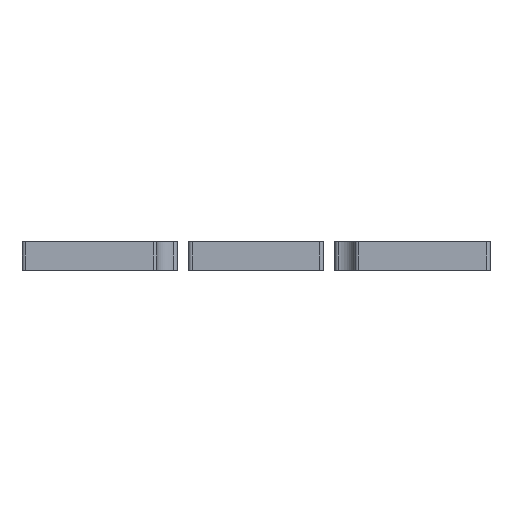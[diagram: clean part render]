
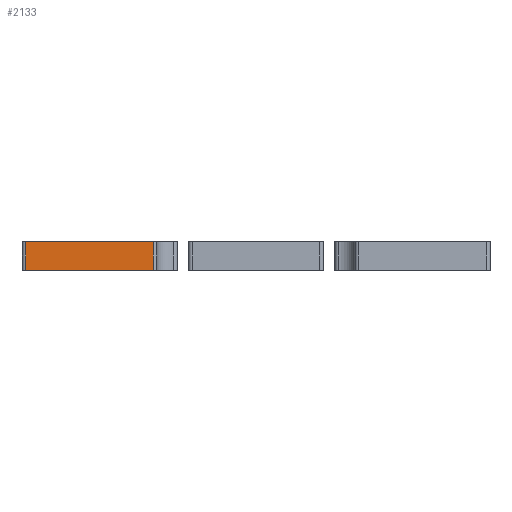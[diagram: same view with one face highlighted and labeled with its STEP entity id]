
A CAD part, front view. The second image highlights one B-rep face of the part: STEP entity #2133.
In plain terms, the highlighted planar face has unit normal (0, -1, 0).
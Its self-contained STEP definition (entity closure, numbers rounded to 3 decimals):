
#25 = VECTOR ( 'NONE', #6021, 1000. ) ;
#643 = PLANE ( 'NONE',  #3785 ) ;
#720 = LINE ( 'NONE', #3465, #4985 ) ;
#925 = CARTESIAN_POINT ( 'NONE',  ( -58.5, -241.9, 49. ) ) ;
#1078 = CARTESIAN_POINT ( 'NONE',  ( -56.5, -241.9, 33. ) ) ;
#1186 = DIRECTION ( 'NONE',  ( 0., 1., 0. ) ) ;
#1474 = ORIENTED_EDGE ( 'NONE', *, *, #1731, .T. ) ;
#1671 = LINE ( 'NONE', #1078, #25 ) ;
#1692 = CARTESIAN_POINT ( 'NONE',  ( -58.5, -241.9, 33. ) ) ;
#1731 = EDGE_CURVE ( 'NONE', #5748, #3503, #720, .T. ) ;
#1838 = EDGE_LOOP ( 'NONE', ( #7590, #1474, #6548, #2698 ) ) ;
#1839 = EDGE_CURVE ( 'NONE', #5748, #4564, #5374, .T. ) ;
#2133 = ADVANCED_FACE ( 'NONE', ( #2597 ), #643, .F. ) ;
#2211 = EDGE_CURVE ( 'NONE', #4018, #4564, #4349, .T. ) ;
#2501 = DIRECTION ( 'NONE',  ( 0., 0., -1. ) ) ;
#2597 = FACE_OUTER_BOUND ( 'NONE', #1838, .T. ) ;
#2698 = ORIENTED_EDGE ( 'NONE', *, *, #2211, .T. ) ;
#3386 = DIRECTION ( 'NONE',  ( 0., 0., -1. ) ) ;
#3465 = CARTESIAN_POINT ( 'NONE',  ( -131.5, -241.9, 49. ) ) ;
#3503 = VERTEX_POINT ( 'NONE', #6479 ) ;
#3785 = AXIS2_PLACEMENT_3D ( 'NONE', #5563, #1186, #2501 ) ;
#4018 = VERTEX_POINT ( 'NONE', #1692 ) ;
#4293 = CARTESIAN_POINT ( 'NONE',  ( -131.5, -241.9, 49. ) ) ;
#4349 = LINE ( 'NONE', #5834, #5506 ) ;
#4564 = VERTEX_POINT ( 'NONE', #925 ) ;
#4605 = VECTOR ( 'NONE', #5375, 1000. ) ;
#4985 = VECTOR ( 'NONE', #3386, 1000. ) ;
#5353 = CARTESIAN_POINT ( 'NONE',  ( -56.5, -241.9, 49. ) ) ;
#5374 = LINE ( 'NONE', #5353, #4605 ) ;
#5375 = DIRECTION ( 'NONE',  ( 1., 0., 0. ) ) ;
#5506 = VECTOR ( 'NONE', #5773, 1000. ) ;
#5563 = CARTESIAN_POINT ( 'NONE',  ( -56.5, -241.9, 49. ) ) ;
#5748 = VERTEX_POINT ( 'NONE', #4293 ) ;
#5773 = DIRECTION ( 'NONE',  ( 0., 0., 1. ) ) ;
#5834 = CARTESIAN_POINT ( 'NONE',  ( -58.5, -241.9, 49. ) ) ;
#6021 = DIRECTION ( 'NONE',  ( 1., 0., 0. ) ) ;
#6479 = CARTESIAN_POINT ( 'NONE',  ( -131.5, -241.9, 33. ) ) ;
#6548 = ORIENTED_EDGE ( 'NONE', *, *, #7599, .T. ) ;
#7590 = ORIENTED_EDGE ( 'NONE', *, *, #1839, .F. ) ;
#7599 = EDGE_CURVE ( 'NONE', #3503, #4018, #1671, .T. ) ;
